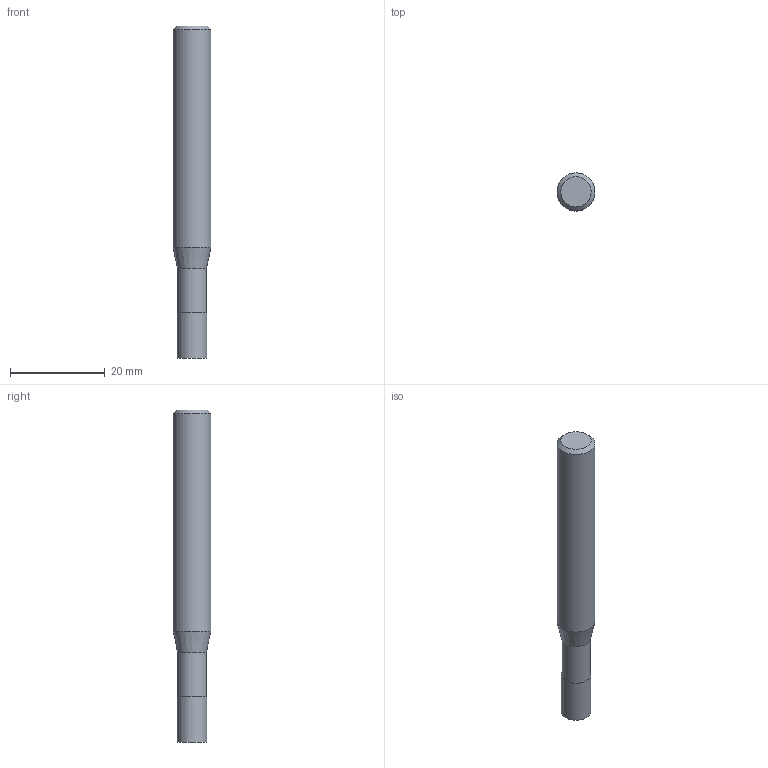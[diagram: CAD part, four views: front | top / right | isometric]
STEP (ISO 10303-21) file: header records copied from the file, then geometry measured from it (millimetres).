
FILE_DESCRIPTION((''),'2;1');
FILE_NAME('C:\Users\nsx150\AppData\Local\Temp\Mastercam 2021\EUJSUNXURU\TEMP.step','2021-04-22T10:28:56',(''),(''),'STEP Write','Mastercam 2021 ... CNC Software, Inc.','');
FILE_SCHEMA(('AUTOMOTIVE_DESIGN'));
Length unit declared in the file: millimetre
Products named in the file (1): None
Bounding box: 8 x 8 x 70 mm (x, y, z)
Volume: 3082.8 mm3; surface area: 1770.5 mm2
Topology: 2 solids, 2 shells, 9 faces, 12 edges, 7 vertices
Faces by surface type: plane 4, cylinder 3, cone 2
Full cylindrical faces by diameter (mm): 6.1 x1, 6.3 x1, 8 x1
Entity records: 211 total; most frequent: DIRECTION 36, CARTESIAN_POINT 25, AXIS2_PLACEMENT_3D 18, ORIENTED_EDGE 14, EDGE_LOOP 14, STYLED_ITEM 12, ADVANCED_FACE 9, FACE_BOUND 8
